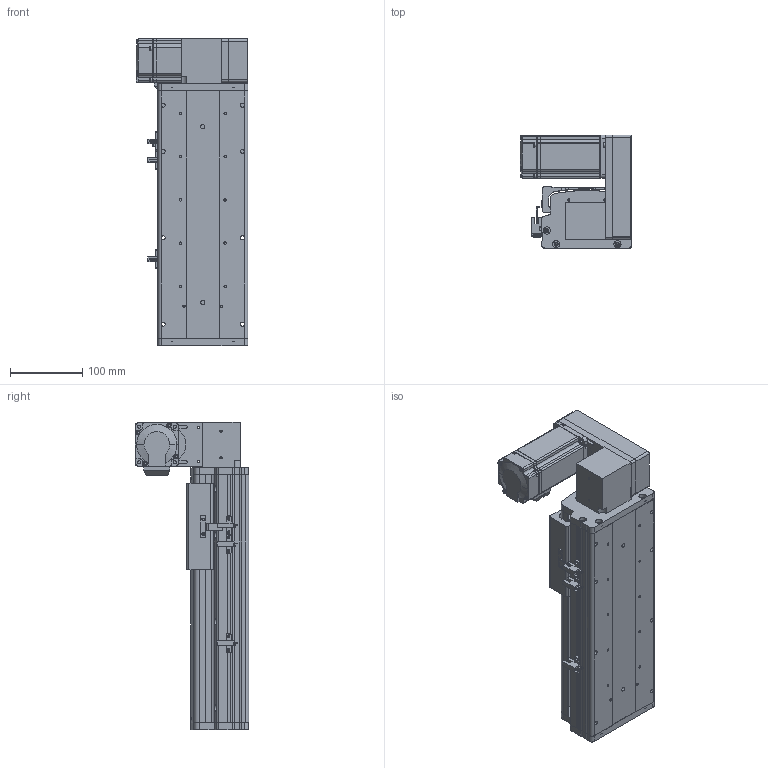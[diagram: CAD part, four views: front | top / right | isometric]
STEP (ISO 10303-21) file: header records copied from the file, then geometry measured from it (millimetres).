
FILE_DESCRIPTION (( 'STEP AP214' ), '1' );
FILE_NAME ('KSD125B-S150-MLU-CM.STEP', '2017-10-21T03:08:34', ( '微软用户' ), ( '微软中国' ), 'SwSTEP 2.0', 'SolidWorks 2014', '' );
FILE_SCHEMA (( 'AUTOMOTIVE_DESIGN' ));
Length unit declared in the file: millimetre
Products named in the file (17): KSD125模组150行程同步带-防尘盖; 125模组150行程同步带-底板; MHMD042G1CA_2_03; KSD125模组同步带-防撞垫2; 覜茼え68遵圉猾敕; U倰嫖萇假蚾璃; U倰嫖萇EEㄜSX672; KSD125模组同步带-防撞垫1; 前端板-125宽模组同步带; 125模组同步带-尾端板1; KSD125模组同步带-滑动座1; KSD125B-S150-MLU-CM; 悵誘欶奻狟殏; 100宽马达安装板连板上下折丝杆同步带; HTPA30S3M150_A_H6_a佪裝蚚; HTPA30S3M150_A_H6_a萇儂蚚; 100宽马达安装板同步带左
Assembly tree (20 placements, depth 2):
  KSD125B-S150-MLU-CM
    KSD125模组同步带-滑动座1
    125模组同步带-尾端板1
    前端板-125宽模组同步带
    KSD125模组同步带-防撞垫1
    U倰嫖萇EEㄜSX672  x3
    U倰嫖萇假蚾璃  x3
    覜茼え68遵圉猾敕
    KSD125模组同步带-防撞垫2
    MHMD042G1CA_2_03
    125模组150行程同步带-底板
    KSD125模组150行程同步带-防尘盖
    100宽马达安装板同步带左
    HTPA30S3M150_A_H6_a萇儂蚚
    HTPA30S3M150_A_H6_a佪裝蚚
    100宽马达安装板连板上下折丝杆同步带
    悵誘欶奻狟殏
Bounding box: 155 x 157.5 x 427 mm (x, y, z)
Volume: 1655188.9 mm3; surface area: 606443.7 mm2
Topology: 19 solids, 22 shells, 2195 faces, 6349 edges, 4194 vertices
Faces by surface type: cylinder 1352, plane 716, cone 105, bspline 22
Entity records: 77459 total; most frequent: CARTESIAN_POINT 15363, DIRECTION 12058, ORIENTED_EDGE 11218, EDGE_CURVE 5687, AXIS2_PLACEMENT_3D 4641, VERTEX_POINT 3786, VECTOR 2776, LINE 2776
